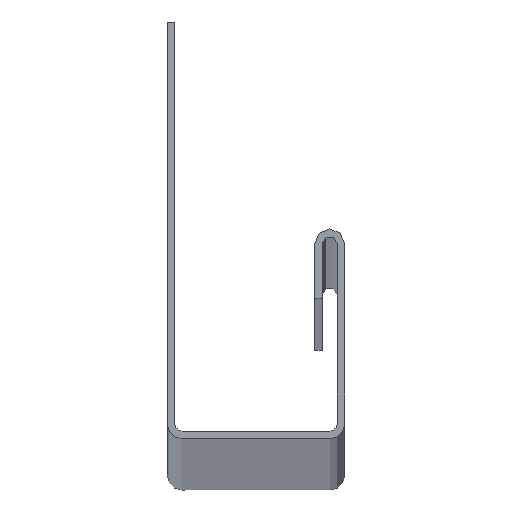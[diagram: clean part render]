
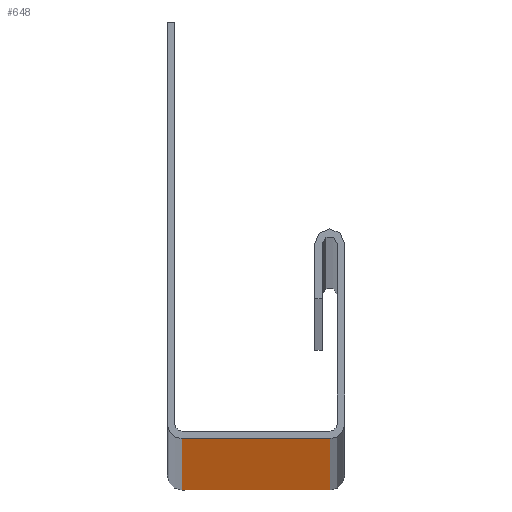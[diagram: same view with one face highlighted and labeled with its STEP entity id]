
A CAD part, top view. The second image highlights one B-rep face of the part: STEP entity #648.
In plain terms, the highlighted planar face has unit normal (0, -1, 0).
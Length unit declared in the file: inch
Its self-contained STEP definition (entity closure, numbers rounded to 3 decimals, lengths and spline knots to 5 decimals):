
#5 = DIRECTION ( 'NONE',  ( 1., 0., 0. ) ) ;
#23 = VERTEX_POINT ( 'NONE', #693 ) ;
#35 = VECTOR ( 'NONE', #5, 39.37008 ) ;
#37 = ORIENTED_EDGE ( 'NONE', *, *, #172, .F. ) ;
#118 = CARTESIAN_POINT ( 'NONE',  ( 0.03937, 0., 0. ) ) ;
#156 = VERTEX_POINT ( 'NONE', #118 ) ;
#163 = CARTESIAN_POINT ( 'NONE',  ( 0.03937, 0., 78.74016 ) ) ;
#172 = EDGE_CURVE ( 'NONE', #388, #318, #574, .T. ) ;
#188 = CARTESIAN_POINT ( 'NONE',  ( 0.03937, 0., 0. ) ) ;
#226 = DIRECTION ( 'NONE',  ( 0., 0., -1. ) ) ;
#240 = DIRECTION ( 'NONE',  ( 0., 1., 0. ) ) ;
#248 = DIRECTION ( 'NONE',  ( 1., 0., 0. ) ) ;
#255 = DIRECTION ( 'NONE',  ( 0., 0., 1. ) ) ;
#298 = VECTOR ( 'NONE', #226, 39.37008 ) ;
#314 = CARTESIAN_POINT ( 'NONE',  ( 0.03937, 0., 78.74016 ) ) ;
#318 = VERTEX_POINT ( 'NONE', #411 ) ;
#329 = VECTOR ( 'NONE', #248, 39.37008 ) ;
#340 = LINE ( 'NONE', #542, #298 ) ;
#348 = CARTESIAN_POINT ( 'NONE',  ( 0.03937, 0., 78.74016 ) ) ;
#359 = VECTOR ( 'NONE', #662, 39.37008 ) ;
#374 = LINE ( 'NONE', #314, #359 ) ;
#388 = VERTEX_POINT ( 'NONE', #522 ) ;
#411 = CARTESIAN_POINT ( 'NONE',  ( 0.43563, 0., 78.74016 ) ) ;
#481 = ORIENTED_EDGE ( 'NONE', *, *, #524, .T. ) ;
#522 = CARTESIAN_POINT ( 'NONE',  ( 0.03937, 0., 78.74016 ) ) ;
#524 = EDGE_CURVE ( 'NONE', #388, #156, #374, .T. ) ;
#542 = CARTESIAN_POINT ( 'NONE',  ( 0.43563, 0., 78.74016 ) ) ;
#545 = LINE ( 'NONE', #188, #329 ) ;
#548 = FACE_OUTER_BOUND ( 'NONE', #626, .T. ) ;
#554 = ORIENTED_EDGE ( 'NONE', *, *, #649, .T. ) ;
#574 = LINE ( 'NONE', #163, #35 ) ;
#612 = EDGE_CURVE ( 'NONE', #318, #23, #340, .T. ) ;
#624 = PLANE ( 'NONE',  #719 ) ;
#626 = EDGE_LOOP ( 'NONE', ( #554, #701, #37, #481 ) ) ;
#648 = ADVANCED_FACE ( 'NONE', ( #548 ), #624, .F. ) ;
#649 = EDGE_CURVE ( 'NONE', #156, #23, #545, .T. ) ;
#662 = DIRECTION ( 'NONE',  ( 0., 0., -1. ) ) ;
#693 = CARTESIAN_POINT ( 'NONE',  ( 0.43563, 0., 0. ) ) ;
#701 = ORIENTED_EDGE ( 'NONE', *, *, #612, .F. ) ;
#719 = AXIS2_PLACEMENT_3D ( 'NONE', #348, #240, #255 ) ;
